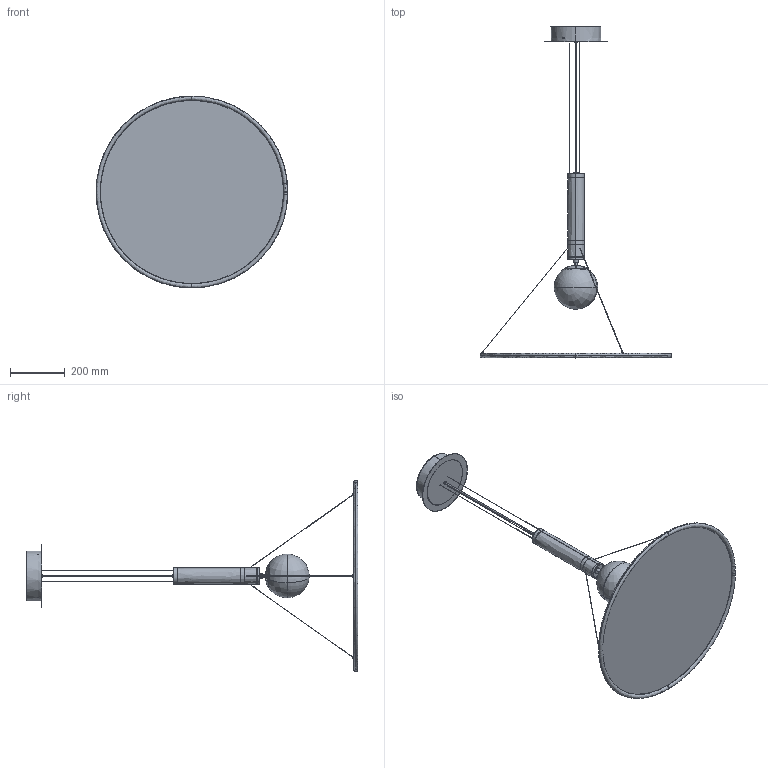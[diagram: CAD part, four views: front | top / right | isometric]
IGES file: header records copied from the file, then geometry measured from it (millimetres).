
Start section: SolidWorks IGES file using analytic representation for surfaces
Global section: file name: D:\OneDrive\R&D\3D\MANTO\700up.IGS; native system: SolidWorks 2019; preprocessor: SolidWorks 2019; author: tecnico8; date: 190725.173032; units: millimetre
Bounding box: 699.43 x 1210.21 x 700 mm (x, y, z)
Surface area: 1465301.8 mm2 (no closed solid volume)
Topology: 0 solids, 0 shells, 641 faces, 11057 edges, 11041 vertices
Faces by surface type: revolution 393, bspline 248
